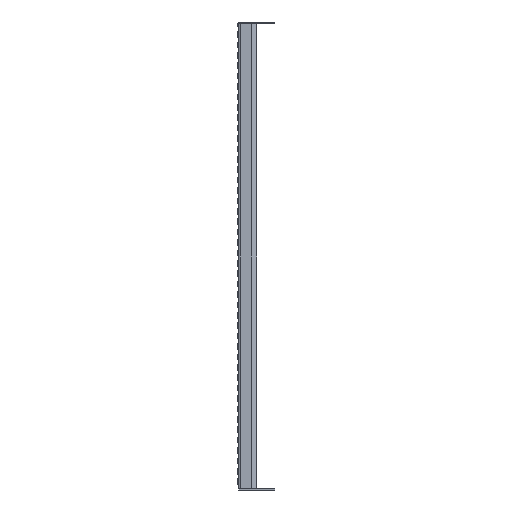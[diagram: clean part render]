
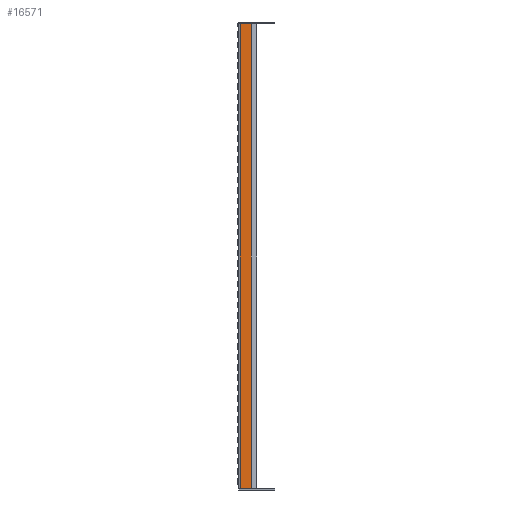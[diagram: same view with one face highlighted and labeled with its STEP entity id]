
A CAD part, left-side view. The second image highlights one B-rep face of the part: STEP entity #16571.
In plain terms, the highlighted planar face has unit normal (-1, 0, 0).
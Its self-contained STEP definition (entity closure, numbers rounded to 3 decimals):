
#2249=FACE_OUTER_BOUND('',#3484,.T.);
#3484=EDGE_LOOP('',(#13713,#13714,#13715,#13716));
#4665=LINE('',#30675,#6245);
#4676=LINE('',#30705,#6256);
#4686=LINE('',#30728,#6266);
#4693=LINE('',#30743,#6273);
#6245=VECTOR('',#21701,10.);
#6256=VECTOR('',#21726,10.);
#6266=VECTOR('',#21748,10.);
#6273=VECTOR('',#21767,10.);
#7933=VERTEX_POINT('',#30672);
#7934=VERTEX_POINT('',#30674);
#7946=VERTEX_POINT('',#30704);
#7953=VERTEX_POINT('',#30727);
#9929=EDGE_CURVE('',#7934,#7933,#4665,.T.);
#9944=EDGE_CURVE('',#7933,#7946,#4676,.T.);
#9956=EDGE_CURVE('',#7953,#7934,#4686,.T.);
#9964=EDGE_CURVE('',#7946,#7953,#4693,.T.);
#13713=ORIENTED_EDGE('',*,*,#9944,.T.);
#13714=ORIENTED_EDGE('',*,*,#9964,.T.);
#13715=ORIENTED_EDGE('',*,*,#9956,.T.);
#13716=ORIENTED_EDGE('',*,*,#9929,.T.);
#15601=PLANE('',#18141);
#16571=ADVANCED_FACE('',(#2249),#15601,.T.);
#18141=AXIS2_PLACEMENT_3D('',#30744,#21768,#21769);
#21701=DIRECTION('',(0.,1.,0.));
#21726=DIRECTION('',(0.,0.,-1.));
#21748=DIRECTION('',(0.,0.,1.));
#21767=DIRECTION('',(0.,-1.,0.));
#21768=DIRECTION('center_axis',(-1.,0.,0.));
#21769=DIRECTION('ref_axis',(0.,0.,1.));
#30672=CARTESIAN_POINT('',(0.,-3.25,894.));
#30674=CARTESIAN_POINT('',(0.,-24.427,894.));
#30675=CARTESIAN_POINT('',(0.,0.,894.));
#30704=CARTESIAN_POINT('',(0.,-3.25,0.));
#30705=CARTESIAN_POINT('',(0.,-3.25,0.));
#30727=CARTESIAN_POINT('',(0.,-24.427,0.));
#30728=CARTESIAN_POINT('',(0.,-24.427,223.5));
#30743=CARTESIAN_POINT('',(0.,0.,0.));
#30744=CARTESIAN_POINT('Origin',(0.,-25.,0.));
